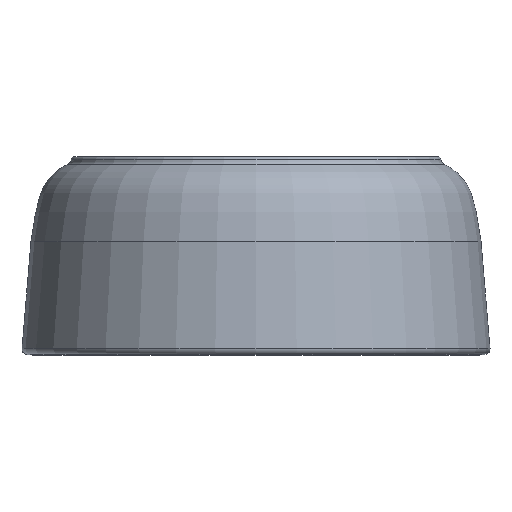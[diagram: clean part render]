
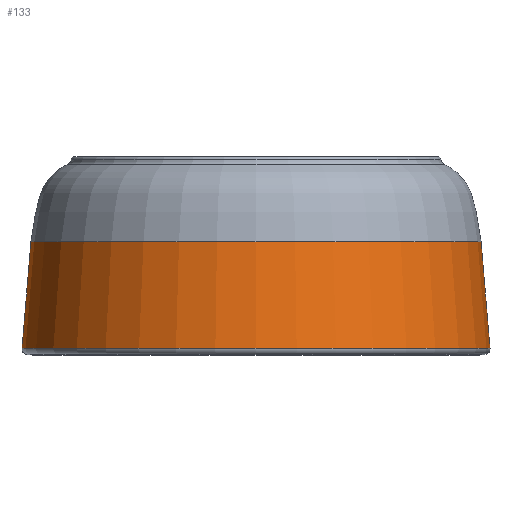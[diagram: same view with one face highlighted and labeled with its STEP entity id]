
A CAD part, left-side view. The second image highlights one B-rep face of the part: STEP entity #133.
In plain terms, the highlighted face is a revolution surface.
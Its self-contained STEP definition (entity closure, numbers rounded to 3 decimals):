
#54=SURFACE_OF_REVOLUTION('',#543,#66);
#66=AXIS1_PLACEMENT('',#1584,#677);
#102=FACE_OUTER_BOUND('',#195,.T.);
#133=ADVANCED_FACE('',(#102),#54,.T.);
#195=EDGE_LOOP('',(#336,#337,#338,#339));
#229=CIRCLE('',#585,192.478);
#233=CIRCLE('',#589,200.159);
#336=ORIENTED_EDGE('',*,*,#490,.F.);
#337=ORIENTED_EDGE('',*,*,#491,.T.);
#338=ORIENTED_EDGE('',*,*,#482,.T.);
#339=ORIENTED_EDGE('',*,*,#492,.T.);
#421=VERTEX_POINT('',#1436);
#422=VERTEX_POINT('',#1437);
#425=VERTEX_POINT('',#1552);
#426=VERTEX_POINT('',#1553);
#482=EDGE_CURVE('',#421,#422,#229,.T.);
#490=EDGE_CURVE('',#425,#426,#233,.T.);
#491=EDGE_CURVE('',#425,#421,#541,.T.);
#492=EDGE_CURVE('',#422,#426,#542,.T.);
#541=B_SPLINE_CURVE_WITH_KNOTS('',3,(#1554,#1555,#1556,#1557,#1558,#1559,
#1560,#1561,#1562,#1563),.UNSPECIFIED.,.F.,.F.,(4,1,1,1,1,1,1,4),(0.,0.,
0.25,0.5,0.625,0.75,
0.875,1.),.UNSPECIFIED.);
#542=B_SPLINE_CURVE_WITH_KNOTS('',3,(#1564,#1565,#1566,#1567,#1568,#1569,
#1570,#1571,#1572,#1573),.UNSPECIFIED.,.F.,.F.,(4,1,1,1,1,1,1,4),(0.,0.125,
0.25,0.375,0.5,0.75,
1.,1.),.UNSPECIFIED.);
#543=B_SPLINE_CURVE_WITH_KNOTS('',3,(#1574,#1575,#1576,#1577,#1578,#1579,
#1580,#1581,#1582,#1583),.UNSPECIFIED.,.F.,.F.,(4,1,1,1,1,1,1,4),(0.,0.5,
0.625,0.75,0.813,0.875,0.938,1.),.UNSPECIFIED.);
#585=AXIS2_PLACEMENT_3D('',#1435,#663,#664);
#589=AXIS2_PLACEMENT_3D('',#1551,#675,#676);
#663=DIRECTION('',(0.,0.,-1.));
#664=DIRECTION('',(0.,-1.,0.));
#675=DIRECTION('',(0.,0.,-1.));
#676=DIRECTION('',(0.,-1.,0.));
#677=DIRECTION('',(0.,0.,1.));
#1435=CARTESIAN_POINT('',(0.,0.,-72.625));
#1436=CARTESIAN_POINT('',(0.,-192.478,-72.625));
#1437=CARTESIAN_POINT('',(0.,192.478,-72.625));
#1551=CARTESIAN_POINT('',(0.,0.,-164.056));
#1552=CARTESIAN_POINT('',(0.,-200.159,-164.056));
#1553=CARTESIAN_POINT('',(0.,200.159,-164.056));
#1554=CARTESIAN_POINT('',(0.,-200.159,-164.056));
#1555=CARTESIAN_POINT('',(0.,-200.159,-164.056));
#1556=CARTESIAN_POINT('',(0.,-199.738,-156.42));
#1557=CARTESIAN_POINT('',(0.,-198.785,-141.155));
#1558=CARTESIAN_POINT('',(0.,-197.321,-122.093));
#1559=CARTESIAN_POINT('',(0.,-195.982,-106.857));
#1560=CARTESIAN_POINT('',(0.,-194.894,-95.438));
#1561=CARTESIAN_POINT('',(0.,-193.722,-84.028));
#1562=CARTESIAN_POINT('',(0.,-192.917,-76.423));
#1563=CARTESIAN_POINT('',(0.,-192.478,-72.625));
#1564=CARTESIAN_POINT('',(0.,192.478,-72.625));
#1565=CARTESIAN_POINT('',(0.,192.917,-76.423));
#1566=CARTESIAN_POINT('',(0.,193.722,-84.028));
#1567=CARTESIAN_POINT('',(0.,194.894,-95.438));
#1568=CARTESIAN_POINT('',(0.,195.982,-106.857));
#1569=CARTESIAN_POINT('',(0.,197.321,-122.093));
#1570=CARTESIAN_POINT('',(0.,198.785,-141.155));
#1571=CARTESIAN_POINT('',(0.,199.738,-156.42));
#1572=CARTESIAN_POINT('',(0.,200.159,-164.056));
#1573=CARTESIAN_POINT('',(0.,200.159,-164.056));
#1574=CARTESIAN_POINT('',(203.464,0.,-255.778));
#1575=CARTESIAN_POINT('',(202.655,0.,-225.188));
#1576=CARTESIAN_POINT('',(201.643,0.,-186.95));
#1577=CARTESIAN_POINT('',(198.785,0.,-141.155));
#1578=CARTESIAN_POINT('',(197.321,0.,-122.093));
#1579=CARTESIAN_POINT('',(195.982,0.,-106.857));
#1580=CARTESIAN_POINT('',(194.894,0.,-95.438));
#1581=CARTESIAN_POINT('',(193.722,0.,-84.028));
#1582=CARTESIAN_POINT('',(192.917,0.,-76.423));
#1583=CARTESIAN_POINT('',(192.478,0.,-72.625));
#1584=CARTESIAN_POINT('',(0.,0.,-170.));
